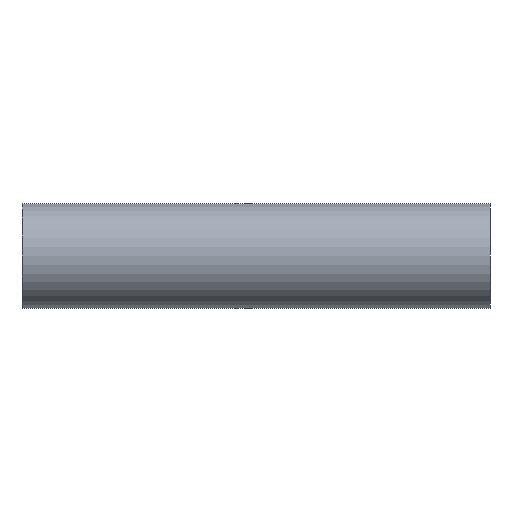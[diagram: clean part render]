
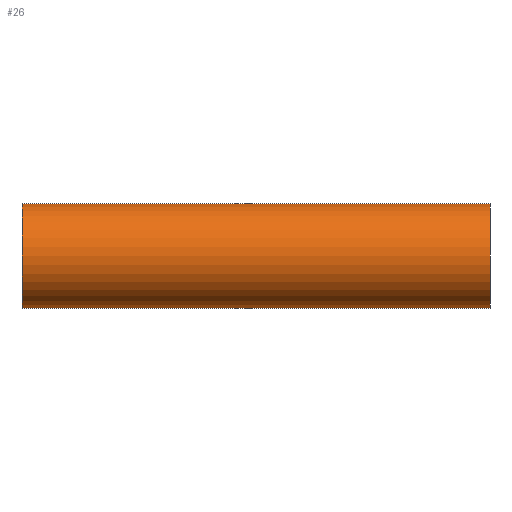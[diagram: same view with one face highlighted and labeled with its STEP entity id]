
A CAD part, front view. The second image highlights one B-rep face of the part: STEP entity #26.
In plain terms, the highlighted cylindrical face has radius 12.7 mm (diameter 25.4 mm), a partial arc.
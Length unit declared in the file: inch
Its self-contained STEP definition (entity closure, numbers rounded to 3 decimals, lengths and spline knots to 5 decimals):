
#26 = ADVANCED_FACE ( 'NONE', ( #31 ), #228, .T. ) ;
#29 = CARTESIAN_POINT ( 'NONE',  ( 3.6465, 0., 0.5 ) ) ;
#31 = FACE_OUTER_BOUND ( 'NONE', #224, .T. ) ;
#37 = VERTEX_POINT ( 'NONE', #455 ) ;
#68 = CARTESIAN_POINT ( 'NONE',  ( -2.23228, 0., 0.5 ) ) ;
#71 = DIRECTION ( 'NONE',  ( 0., 0., 1. ) ) ;
#81 = DIRECTION ( 'NONE',  ( 0., 0., 1. ) ) ;
#107 = DIRECTION ( 'NONE',  ( -1., 0., 0. ) ) ;
#116 = CIRCLE ( 'NONE', #405, 0.5 ) ;
#124 = VECTOR ( 'NONE', #199, 39.37008 ) ;
#134 = VECTOR ( 'NONE', #107, 39.37008 ) ;
#137 = AXIS2_PLACEMENT_3D ( 'NONE', #483, #294, #71 ) ;
#149 = LINE ( 'NONE', #29, #134 ) ;
#155 = DIRECTION ( 'NONE',  ( -1., 0., 0. ) ) ;
#175 = CARTESIAN_POINT ( 'NONE',  ( 2.23228, 0., 0.5 ) ) ;
#199 = DIRECTION ( 'NONE',  ( -1., 0., 0. ) ) ;
#224 = EDGE_LOOP ( 'NONE', ( #410, #387, #474, #256 ) ) ;
#228 = CYLINDRICAL_SURFACE ( 'NONE', #238, 0.5 ) ;
#238 = AXIS2_PLACEMENT_3D ( 'NONE', #453, #340, #81 ) ;
#239 = EDGE_CURVE ( 'NONE', #336, #37, #309, .T. ) ;
#256 = ORIENTED_EDGE ( 'NONE', *, *, #418, .T. ) ;
#264 = EDGE_CURVE ( 'NONE', #336, #401, #116, .T. ) ;
#294 = DIRECTION ( 'NONE',  ( 1., 0., 0. ) ) ;
#309 = LINE ( 'NONE', #357, #124 ) ;
#336 = VERTEX_POINT ( 'NONE', #364 ) ;
#340 = DIRECTION ( 'NONE',  ( -1., 0., 0. ) ) ;
#357 = CARTESIAN_POINT ( 'NONE',  ( 3.6465, 0., -0.5 ) ) ;
#364 = CARTESIAN_POINT ( 'NONE',  ( 2.23228, 0., -0.5 ) ) ;
#385 = DIRECTION ( 'NONE',  ( 0., 0., 1. ) ) ;
#387 = ORIENTED_EDGE ( 'NONE', *, *, #264, .T. ) ;
#401 = VERTEX_POINT ( 'NONE', #175 ) ;
#405 = AXIS2_PLACEMENT_3D ( 'NONE', #420, #155, #385 ) ;
#410 = ORIENTED_EDGE ( 'NONE', *, *, #239, .F. ) ;
#418 = EDGE_CURVE ( 'NONE', #438, #37, #427, .T. ) ;
#420 = CARTESIAN_POINT ( 'NONE',  ( 2.23228, 0., 0. ) ) ;
#427 = CIRCLE ( 'NONE', #137, 0.5 ) ;
#438 = VERTEX_POINT ( 'NONE', #68 ) ;
#453 = CARTESIAN_POINT ( 'NONE',  ( 3.6465, 0., 0. ) ) ;
#455 = CARTESIAN_POINT ( 'NONE',  ( -2.23228, 0., -0.5 ) ) ;
#468 = EDGE_CURVE ( 'NONE', #401, #438, #149, .T. ) ;
#474 = ORIENTED_EDGE ( 'NONE', *, *, #468, .T. ) ;
#483 = CARTESIAN_POINT ( 'NONE',  ( -2.23228, 0., 0. ) ) ;
